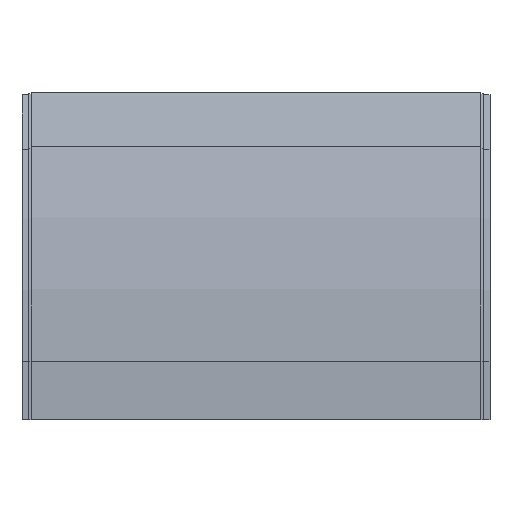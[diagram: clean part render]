
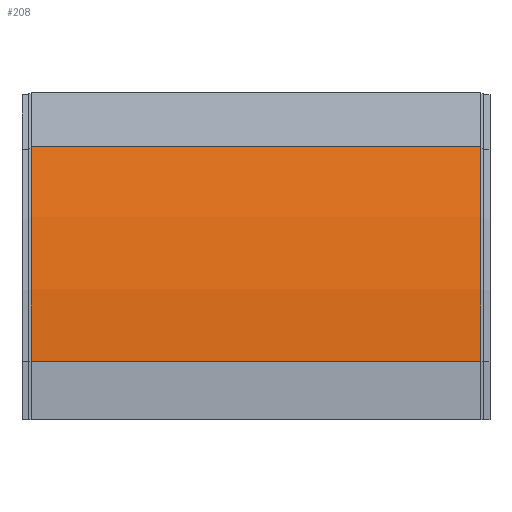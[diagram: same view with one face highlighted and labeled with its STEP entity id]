
A CAD part, front view. The second image highlights one B-rep face of the part: STEP entity #208.
In plain terms, the highlighted cylindrical face has radius 568.25 mm (diameter 1136.5 mm), a partial arc.
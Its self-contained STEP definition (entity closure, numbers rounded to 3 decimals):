
#23 = VERTEX_POINT ( 'NONE', #1335 ) ;
#68 = AXIS2_PLACEMENT_3D ( 'NONE', #529, #1270, #843 ) ;
#161 = ORIENTED_EDGE ( 'NONE', *, *, #839, .T. ) ;
#208 = ADVANCED_FACE ( 'NONE', ( #619 ), #1360, .T. ) ;
#356 = DIRECTION ( 'NONE',  ( 0., 0., 1. ) ) ;
#375 = CARTESIAN_POINT ( 'NONE',  ( -203.2, -33.98, 246.853 ) ) ;
#455 = CARTESIAN_POINT ( 'NONE',  ( 203.2, -33.98, 246.853 ) ) ;
#488 = CARTESIAN_POINT ( 'NONE',  ( 203.2, -68.25, 52.5 ) ) ;
#502 = ORIENTED_EDGE ( 'NONE', *, *, #679, .T. ) ;
#524 = EDGE_LOOP ( 'NONE', ( #161, #502, #586, #900 ) ) ;
#529 = CARTESIAN_POINT ( 'NONE',  ( 0., 500., 52.5 ) ) ;
#556 = LINE ( 'NONE', #787, #1383 ) ;
#557 = CIRCLE ( 'NONE', #1229, 568.25 ) ;
#586 = ORIENTED_EDGE ( 'NONE', *, *, #1224, .F. ) ;
#619 = FACE_OUTER_BOUND ( 'NONE', #524, .T. ) ;
#653 = CARTESIAN_POINT ( 'NONE',  ( 203.2, 500., 52.5 ) ) ;
#679 = EDGE_CURVE ( 'NONE', #1393, #1257, #557, .T. ) ;
#777 = AXIS2_PLACEMENT_3D ( 'NONE', #1048, #914, #1028 ) ;
#787 = CARTESIAN_POINT ( 'NONE',  ( -203.2, -33.98, 246.853 ) ) ;
#839 = EDGE_CURVE ( 'NONE', #23, #1393, #1126, .T. ) ;
#843 = DIRECTION ( 'NONE',  ( 0., 0., 1. ) ) ;
#900 = ORIENTED_EDGE ( 'NONE', *, *, #1374, .F. ) ;
#901 = CIRCLE ( 'NONE', #777, 568.25 ) ;
#914 = DIRECTION ( 'NONE',  ( -1., 0., 0. ) ) ;
#931 = VERTEX_POINT ( 'NONE', #375 ) ;
#1028 = DIRECTION ( 'NONE',  ( 0., 0., 1. ) ) ;
#1032 = DIRECTION ( 'NONE',  ( 1., 0., 0. ) ) ;
#1048 = CARTESIAN_POINT ( 'NONE',  ( -203.2, 500., 52.5 ) ) ;
#1103 = DIRECTION ( 'NONE',  ( 1., 0., 0. ) ) ;
#1126 = LINE ( 'NONE', #1235, #1384 ) ;
#1224 = EDGE_CURVE ( 'NONE', #931, #1257, #556, .T. ) ;
#1229 = AXIS2_PLACEMENT_3D ( 'NONE', #653, #1310, #356 ) ;
#1235 = CARTESIAN_POINT ( 'NONE',  ( -203.2, -68.25, 52.5 ) ) ;
#1257 = VERTEX_POINT ( 'NONE', #455 ) ;
#1270 = DIRECTION ( 'NONE',  ( -1., 0., 0. ) ) ;
#1310 = DIRECTION ( 'NONE',  ( -1., 0., 0. ) ) ;
#1335 = CARTESIAN_POINT ( 'NONE',  ( -203.2, -68.25, 52.5 ) ) ;
#1360 = CYLINDRICAL_SURFACE ( 'NONE', #68, 568.25 ) ;
#1374 = EDGE_CURVE ( 'NONE', #23, #931, #901, .T. ) ;
#1383 = VECTOR ( 'NONE', #1103, 1000. ) ;
#1384 = VECTOR ( 'NONE', #1032, 1000. ) ;
#1393 = VERTEX_POINT ( 'NONE', #488 ) ;
